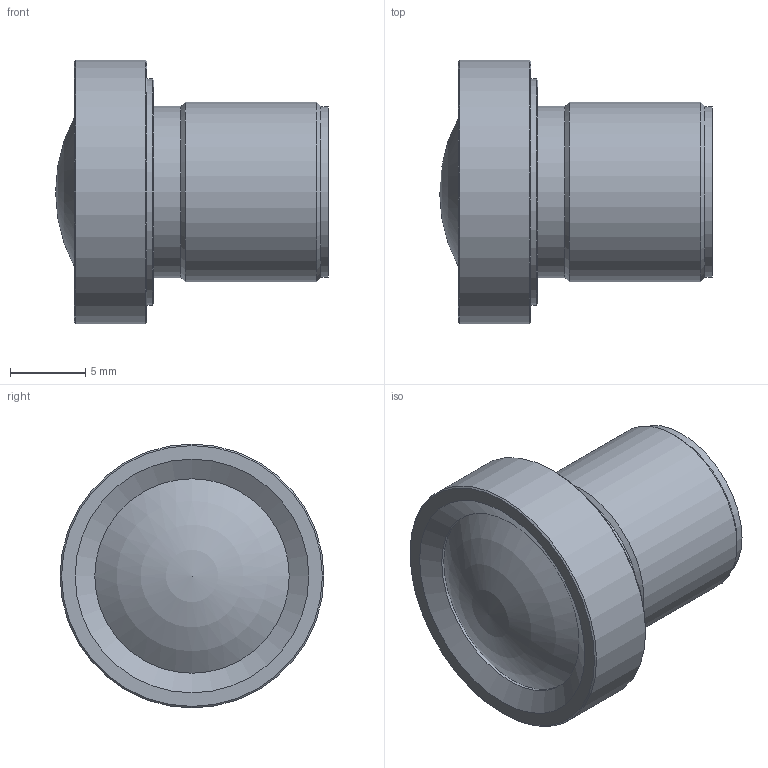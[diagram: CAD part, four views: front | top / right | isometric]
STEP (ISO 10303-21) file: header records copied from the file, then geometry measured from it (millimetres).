
FILE_DESCRIPTION(/* description */ (''),/* implementation_level */ '2;1');
FILE_NAME(/* name */ 'C:\Users\MaxHenkart\Desktop\Commonlands\Product\CIL335\CIL335-F1.8-M12ANIR v1.stp',/* time_stamp */ '2023-04-10T13:56:27-07:00',/* author */ ('MaxHenkart'),/* organization */ (''),/* preprocessor_version */ 'ST-DEVELOPER v19',/* originating_system */ 'Autodesk Inventor 2023',/* authorisation */ '');
FILE_SCHEMA (('AUTOMOTIVE_DESIGN { 1 0 10303 214 3 1 1 }'));
Length unit declared in the file: millimetre
Products named in the file (1): CIL335-F1.8-M12ANIR v1
Bounding box: 18.09 x 17.5 x 17.5 mm (x, y, z)
Volume: 2460.6 mm3; surface area: 1283.8 mm2
Topology: 1 solids, 1 shells, 26 faces, 49 edges, 31 vertices
Faces by surface type: cone 9, cylinder 8, plane 8, sphere 1
Full cylindrical faces by diameter (mm): 10.9 x1, 11.3 x1, 11.36 x1, 11.9 x1, 12.9 x1, 15 x1, 16.5 x1, 17.5 x1
Entity records: 702 total; most frequent: DIRECTION 133, CARTESIAN_POINT 106, ORIENTED_EDGE 96, AXIS2_PLACEMENT_3D 58, EDGE_CURVE 48, EDGE_LOOP 33, CIRCLE 31, VERTEX_POINT 31
